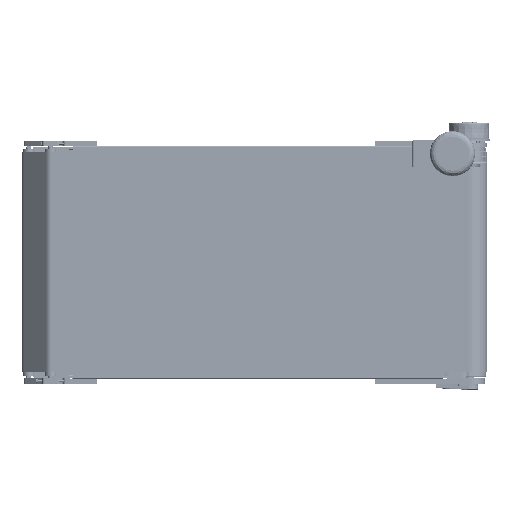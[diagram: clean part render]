
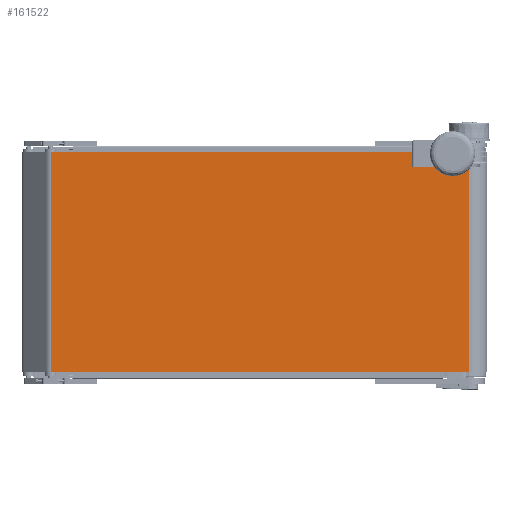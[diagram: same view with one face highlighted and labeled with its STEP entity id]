
A CAD part, front view. The second image highlights one B-rep face of the part: STEP entity #161522.
In plain terms, the highlighted planar face has unit normal (0, -1, 0).
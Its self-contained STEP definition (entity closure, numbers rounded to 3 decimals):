
#11866 = EDGE_CURVE ( 'NONE', #77467, #16983, #109027, .T. ) ;
#13832 = DIRECTION ( 'NONE',  ( 1., 0., 0. ) ) ;
#16983 = VERTEX_POINT ( 'NONE', #88568 ) ;
#21026 = LINE ( 'NONE', #145175, #43067 ) ;
#25299 = LINE ( 'NONE', #76014, #150971 ) ;
#27962 = CARTESIAN_POINT ( 'NONE',  ( -566., -49.5, 300. ) ) ;
#28748 = ORIENTED_EDGE ( 'NONE', *, *, #152308, .F. ) ;
#34967 = CARTESIAN_POINT ( 'NONE',  ( -566., -49.5, 300. ) ) ;
#40255 = LINE ( 'NONE', #27962, #60264 ) ;
#43067 = VECTOR ( 'NONE', #56245, 1000. ) ;
#48913 = PLANE ( 'NONE',  #102380 ) ;
#52635 = EDGE_LOOP ( 'NONE', ( #145178, #28748, #89182, #126298 ) ) ;
#56245 = DIRECTION ( 'NONE',  ( 0., 0., -1. ) ) ;
#60264 = VECTOR ( 'NONE', #77897, 1000. ) ;
#62074 = VERTEX_POINT ( 'NONE', #118082 ) ;
#74033 = CARTESIAN_POINT ( 'NONE',  ( 574., -49.5, 300. ) ) ;
#76014 = CARTESIAN_POINT ( 'NONE',  ( -566., -49.5, 300. ) ) ;
#77467 = VERTEX_POINT ( 'NONE', #158722 ) ;
#77897 = DIRECTION ( 'NONE',  ( 0., 0., -1. ) ) ;
#88568 = CARTESIAN_POINT ( 'NONE',  ( 574., -49.5, -300. ) ) ;
#88573 = CARTESIAN_POINT ( 'NONE',  ( -566., -49.5, -300. ) ) ;
#89182 = ORIENTED_EDGE ( 'NONE', *, *, #97103, .F. ) ;
#97103 = EDGE_CURVE ( 'NONE', #62074, #158002, #25299, .T. ) ;
#97910 = FACE_OUTER_BOUND ( 'NONE', #52635, .T. ) ;
#99993 = DIRECTION ( 'NONE',  ( 1., 0., 0. ) ) ;
#102380 = AXIS2_PLACEMENT_3D ( 'NONE', #34967, #147667, #110120 ) ;
#109027 = LINE ( 'NONE', #88573, #124819 ) ;
#110120 = DIRECTION ( 'NONE',  ( -1., 0., 0. ) ) ;
#118082 = CARTESIAN_POINT ( 'NONE',  ( -566., -49.5, 300. ) ) ;
#118504 = EDGE_CURVE ( 'NONE', #62074, #77467, #40255, .T. ) ;
#124819 = VECTOR ( 'NONE', #99993, 1000. ) ;
#126298 = ORIENTED_EDGE ( 'NONE', *, *, #118504, .T. ) ;
#145175 = CARTESIAN_POINT ( 'NONE',  ( 574., -49.5, 300. ) ) ;
#145178 = ORIENTED_EDGE ( 'NONE', *, *, #11866, .T. ) ;
#147667 = DIRECTION ( 'NONE',  ( 0., 1., 0. ) ) ;
#150971 = VECTOR ( 'NONE', #13832, 1000. ) ;
#152308 = EDGE_CURVE ( 'NONE', #158002, #16983, #21026, .T. ) ;
#158002 = VERTEX_POINT ( 'NONE', #74033 ) ;
#158722 = CARTESIAN_POINT ( 'NONE',  ( -566., -49.5, -300. ) ) ;
#161522 = ADVANCED_FACE ( 'NONE', ( #97910 ), #48913, .F. ) ;
